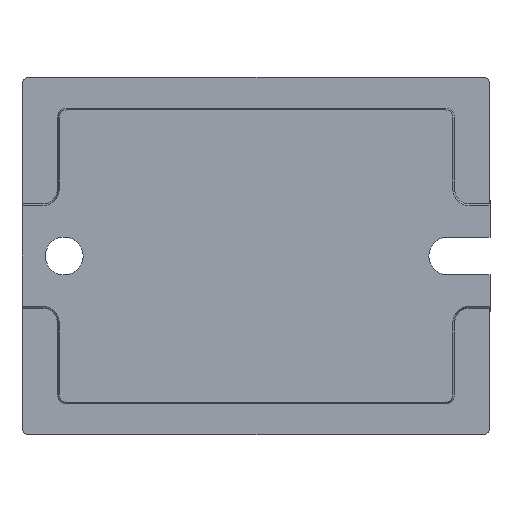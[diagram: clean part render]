
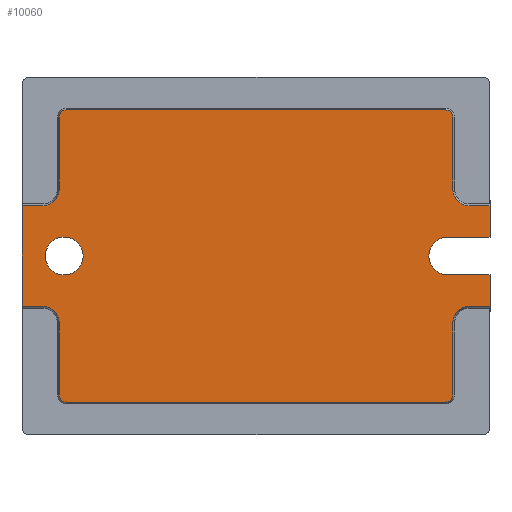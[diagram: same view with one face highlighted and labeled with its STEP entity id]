
A CAD part, front view. The second image highlights one B-rep face of the part: STEP entity #10060.
In plain terms, the highlighted planar face has unit normal (0, -1, 0).
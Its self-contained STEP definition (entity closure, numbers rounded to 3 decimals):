
#313=FACE_BOUND('',#1813,.T.);
#696=CIRCLE('',#10979,2.055);
#697=CIRCLE('',#10983,2.055);
#700=CIRCLE('',#10990,0.893);
#701=CIRCLE('',#10993,0.893);
#702=CIRCLE('',#10996,2.055);
#703=CIRCLE('',#10999,2.35);
#704=CIRCLE('',#11003,2.35);
#705=CIRCLE('',#11008,0.893);
#706=CIRCLE('',#11011,0.893);
#707=CIRCLE('',#11014,2.055);
#1243=FACE_OUTER_BOUND('',#1812,.T.);
#1812=EDGE_LOOP('',(#8662,#8663,#8664,#8665,#8666,#8667,#8668,#8669,#8670,
#8671,#8672,#8673,#8674,#8675,#8676,#8677,#8678,#8679,#8680,#8681,#8682,
#8683,#8684,#8685));
#1813=EDGE_LOOP('',(#8686));
#2681=LINE('',#16778,#3602);
#2687=LINE('',#16791,#3608);
#2694=LINE('',#16807,#3615);
#2708=LINE('',#16840,#3629);
#2711=LINE('',#16848,#3632);
#2715=LINE('',#16858,#3636);
#2716=LINE('',#16865,#3637);
#2719=LINE('',#16871,#3640);
#2722=LINE('',#16878,#3643);
#2727=LINE('',#16888,#3648);
#2730=LINE('',#16893,#3651);
#2733=LINE('',#16901,#3654);
#2736=LINE('',#16909,#3657);
#2738=LINE('',#16914,#3659);
#2739=LINE('',#16915,#3660);
#3602=VECTOR('',#13677,8.927);
#3608=VECTOR('',#13689,2.557);
#3615=VECTOR('',#13704,8.927);
#3629=VECTOR('',#13732,47.05);
#3632=VECTOR('',#13741,8.927);
#3636=VECTOR('',#13751,2.557);
#3637=VECTOR('',#13758,5.23);
#3640=VECTOR('',#13763,5.23);
#3643=VECTOR('',#13772,2.557);
#3648=VECTOR('',#13779,2.557);
#3651=VECTOR('',#13784,3.893);
#3654=VECTOR('',#13793,47.05);
#3657=VECTOR('',#13802,8.927);
#3659=VECTOR('',#13810,12.486);
#3660=VECTOR('',#13811,3.893);
#4556=VERTEX_POINT('',#16775);
#4557=VERTEX_POINT('',#16777);
#4558=VERTEX_POINT('',#16781);
#4561=VERTEX_POINT('',#16789);
#4564=VERTEX_POINT('',#16799);
#4565=VERTEX_POINT('',#16801);
#4566=VERTEX_POINT('',#16805);
#4577=VERTEX_POINT('',#16834);
#4578=VERTEX_POINT('',#16838);
#4579=VERTEX_POINT('',#16842);
#4580=VERTEX_POINT('',#16846);
#4581=VERTEX_POINT('',#16850);
#4583=VERTEX_POINT('',#16856);
#4584=VERTEX_POINT('',#16860);
#4585=VERTEX_POINT('',#16863);
#4586=VERTEX_POINT('',#16864);
#4587=VERTEX_POINT('',#16869);
#4588=VERTEX_POINT('',#16870);
#4589=VERTEX_POINT('',#16877);
#4592=VERTEX_POINT('',#16885);
#4593=VERTEX_POINT('',#16887);
#4595=VERTEX_POINT('',#16896);
#4596=VERTEX_POINT('',#16900);
#4597=VERTEX_POINT('',#16904);
#4598=VERTEX_POINT('',#16908);
#5906=EDGE_CURVE('',#4556,#4557,#2681,.T.);
#5909=EDGE_CURVE('',#4558,#4556,#696,.T.);
#5913=EDGE_CURVE('',#4561,#4558,#2687,.T.);
#5918=EDGE_CURVE('',#4564,#4565,#697,.T.);
#5921=EDGE_CURVE('',#4566,#4564,#2694,.T.);
#5936=EDGE_CURVE('',#4577,#4566,#700,.T.);
#5938=EDGE_CURVE('',#4578,#4577,#2708,.T.);
#5940=EDGE_CURVE('',#4579,#4578,#701,.T.);
#5942=EDGE_CURVE('',#4580,#4579,#2711,.T.);
#5944=EDGE_CURVE('',#4581,#4580,#702,.T.);
#5947=EDGE_CURVE('',#4583,#4581,#2715,.T.);
#5948=EDGE_CURVE('',#4584,#4584,#703,.T.);
#5949=EDGE_CURVE('',#4585,#4586,#2716,.T.);
#5952=EDGE_CURVE('',#4587,#4588,#2719,.T.);
#5955=EDGE_CURVE('',#4588,#4585,#704,.T.);
#5956=EDGE_CURVE('',#4565,#4589,#2722,.T.);
#5961=EDGE_CURVE('',#4592,#4593,#2727,.T.);
#5964=EDGE_CURVE('',#4583,#4587,#2730,.T.);
#5966=EDGE_CURVE('',#4557,#4595,#705,.T.);
#5968=EDGE_CURVE('',#4595,#4596,#2733,.T.);
#5970=EDGE_CURVE('',#4596,#4597,#706,.T.);
#5972=EDGE_CURVE('',#4597,#4598,#2736,.T.);
#5974=EDGE_CURVE('',#4598,#4592,#707,.T.);
#5975=EDGE_CURVE('',#4561,#4589,#2738,.T.);
#5976=EDGE_CURVE('',#4586,#4593,#2739,.T.);
#8662=ORIENTED_EDGE('',*,*,#5975,.T.);
#8663=ORIENTED_EDGE('',*,*,#5956,.F.);
#8664=ORIENTED_EDGE('',*,*,#5918,.F.);
#8665=ORIENTED_EDGE('',*,*,#5921,.F.);
#8666=ORIENTED_EDGE('',*,*,#5936,.F.);
#8667=ORIENTED_EDGE('',*,*,#5938,.F.);
#8668=ORIENTED_EDGE('',*,*,#5940,.F.);
#8669=ORIENTED_EDGE('',*,*,#5942,.F.);
#8670=ORIENTED_EDGE('',*,*,#5944,.F.);
#8671=ORIENTED_EDGE('',*,*,#5947,.F.);
#8672=ORIENTED_EDGE('',*,*,#5964,.T.);
#8673=ORIENTED_EDGE('',*,*,#5952,.T.);
#8674=ORIENTED_EDGE('',*,*,#5955,.T.);
#8675=ORIENTED_EDGE('',*,*,#5949,.T.);
#8676=ORIENTED_EDGE('',*,*,#5976,.T.);
#8677=ORIENTED_EDGE('',*,*,#5961,.F.);
#8678=ORIENTED_EDGE('',*,*,#5974,.F.);
#8679=ORIENTED_EDGE('',*,*,#5972,.F.);
#8680=ORIENTED_EDGE('',*,*,#5970,.F.);
#8681=ORIENTED_EDGE('',*,*,#5968,.F.);
#8682=ORIENTED_EDGE('',*,*,#5966,.F.);
#8683=ORIENTED_EDGE('',*,*,#5906,.F.);
#8684=ORIENTED_EDGE('',*,*,#5909,.F.);
#8685=ORIENTED_EDGE('',*,*,#5913,.F.);
#8686=ORIENTED_EDGE('',*,*,#5948,.T.);
#9060=PLANE('',#11015);
#10060=ADVANCED_FACE('',(#1243,#313),#9060,.T.);
#10979=AXIS2_PLACEMENT_3D('',#16783,#13682,#13683);
#10983=AXIS2_PLACEMENT_3D('',#16802,#13698,#13699);
#10990=AXIS2_PLACEMENT_3D('',#16836,#13727,#13728);
#10993=AXIS2_PLACEMENT_3D('',#16844,#13736,#13737);
#10996=AXIS2_PLACEMENT_3D('',#16852,#13745,#13746);
#10999=AXIS2_PLACEMENT_3D('',#16861,#13754,#13755);
#11003=AXIS2_PLACEMENT_3D('',#16875,#13768,#13769);
#11008=AXIS2_PLACEMENT_3D('',#16897,#13788,#13789);
#11011=AXIS2_PLACEMENT_3D('',#16905,#13797,#13798);
#11014=AXIS2_PLACEMENT_3D('',#16912,#13806,#13807);
#11015=AXIS2_PLACEMENT_3D('',#16913,#13808,#13809);
#13677=DIRECTION('',(0.,0.,1.));
#13682=DIRECTION('center_axis',(0.,-1.,0.));
#13683=DIRECTION('ref_axis',(0.,0.,
1.));
#13689=DIRECTION('',(1.,0.,0.));
#13698=DIRECTION('center_axis',(0.,-1.,0.));
#13699=DIRECTION('ref_axis',(-1.,0.,0.));
#13704=DIRECTION('',(0.,0.,1.));
#13727=DIRECTION('center_axis',(0.,1.,0.));
#13728=DIRECTION('ref_axis',(-1.,0.,0.));
#13732=DIRECTION('',(-1.,0.,0.));
#13736=DIRECTION('center_axis',(0.,1.,0.));
#13737=DIRECTION('ref_axis',(0.,0.,
-1.));
#13741=DIRECTION('',(0.,0.,-1.));
#13745=DIRECTION('center_axis',(0.,-1.,0.));
#13746=DIRECTION('ref_axis',(0.,0.,
-1.));
#13751=DIRECTION('',(-1.,0.,0.));
#13754=DIRECTION('center_axis',(0.,1.,0.));
#13755=DIRECTION('ref_axis',(-1.,0.,0.));
#13758=DIRECTION('',(1.,0.,0.));
#13763=DIRECTION('',(-1.,0.,0.));
#13768=DIRECTION('center_axis',(0.,1.,0.));
#13769=DIRECTION('ref_axis',(-1.,0.,0.));
#13772=DIRECTION('',(-1.,0.,0.));
#13779=DIRECTION('',(1.,0.,0.));
#13784=DIRECTION('',(0.,0.,1.));
#13788=DIRECTION('center_axis',(0.,1.,0.));
#13789=DIRECTION('ref_axis',(0.,0.,
1.));
#13793=DIRECTION('',(1.,0.,0.));
#13797=DIRECTION('center_axis',(0.,1.,0.));
#13798=DIRECTION('ref_axis',(1.,0.,0.));
#13802=DIRECTION('',(0.,0.,-1.));
#13806=DIRECTION('center_axis',(0.,-1.,0.));
#13807=DIRECTION('ref_axis',(1.,0.,0.));
#13808=DIRECTION('center_axis',(0.,-1.,0.));
#13809=DIRECTION('ref_axis',(-1.,0.,0.));
#13810=DIRECTION('',(0.,0.,-1.));
#13811=DIRECTION('',(0.,0.,1.));
#16775=CARTESIAN_POINT('',(-24.448,0.,8.298));
#16777=CARTESIAN_POINT('',(-24.448,0.,17.225));
#16778=CARTESIAN_POINT('',(-24.448,0.,17.225));
#16781=CARTESIAN_POINT('',(-26.503,0.,6.243));
#16783=CARTESIAN_POINT('Origin',(-26.503,0.,8.298));
#16789=CARTESIAN_POINT('',(-29.06,0.,6.243));
#16791=CARTESIAN_POINT('',(-26.503,0.,6.243));
#16799=CARTESIAN_POINT('',(-24.448,0.,-8.298));
#16801=CARTESIAN_POINT('',(-26.503,0.,-6.243));
#16802=CARTESIAN_POINT('Origin',(-26.503,0.,-8.298));
#16805=CARTESIAN_POINT('',(-24.448,0.,-17.225));
#16807=CARTESIAN_POINT('',(-24.448,0.,-8.298));
#16834=CARTESIAN_POINT('',(-23.555,0.,-18.118));
#16836=CARTESIAN_POINT('Origin',(-23.555,0.,-17.225));
#16838=CARTESIAN_POINT('',(23.495,0.,-18.118));
#16840=CARTESIAN_POINT('',(-23.555,0.,-18.118));
#16842=CARTESIAN_POINT('',(24.388,0.,-17.225));
#16844=CARTESIAN_POINT('Origin',(23.495,0.,-17.225));
#16846=CARTESIAN_POINT('',(24.388,0.,-8.298));
#16848=CARTESIAN_POINT('',(24.388,0.,-17.225));
#16850=CARTESIAN_POINT('',(26.443,0.,-6.243));
#16852=CARTESIAN_POINT('Origin',(26.443,0.,-8.298));
#16856=CARTESIAN_POINT('',(29.,0.,-6.243));
#16858=CARTESIAN_POINT('',(26.443,0.,-6.243));
#16860=CARTESIAN_POINT('',(-21.48,0.,0.));
#16861=CARTESIAN_POINT('Origin',(-23.83,0.,0.));
#16863=CARTESIAN_POINT('',(23.77,0.,2.35));
#16864=CARTESIAN_POINT('',(29.,0.,2.35));
#16865=CARTESIAN_POINT('',(11.87,0.,2.35));
#16869=CARTESIAN_POINT('',(29.,0.,-2.35));
#16870=CARTESIAN_POINT('',(23.77,0.,-2.35));
#16871=CARTESIAN_POINT('',(14.485,0.,-2.35));
#16875=CARTESIAN_POINT('Origin',(23.77,0.,0.));
#16877=CARTESIAN_POINT('',(-29.06,0.,-6.243));
#16878=CARTESIAN_POINT('',(-31.06,0.,-6.243));
#16885=CARTESIAN_POINT('',(26.443,0.,6.243));
#16887=CARTESIAN_POINT('',(29.,0.,6.243));
#16888=CARTESIAN_POINT('',(31.,0.,6.243));
#16893=CARTESIAN_POINT('',(29.,0.,1.175));
#16896=CARTESIAN_POINT('',(-23.555,0.,18.118));
#16897=CARTESIAN_POINT('Origin',(-23.555,0.,17.225));
#16900=CARTESIAN_POINT('',(23.495,0.,18.118));
#16901=CARTESIAN_POINT('',(23.495,0.,18.118));
#16904=CARTESIAN_POINT('',(24.388,0.,17.225));
#16905=CARTESIAN_POINT('Origin',(23.495,0.,17.225));
#16908=CARTESIAN_POINT('',(24.388,0.,8.298));
#16909=CARTESIAN_POINT('',(24.388,0.,8.298));
#16912=CARTESIAN_POINT('Origin',(26.443,0.,8.298));
#16913=CARTESIAN_POINT('Origin',(-0.03,0.,
0.));
#16914=CARTESIAN_POINT('',(-29.06,0.,3.425));
#16915=CARTESIAN_POINT('',(29.,0.,1.175));
